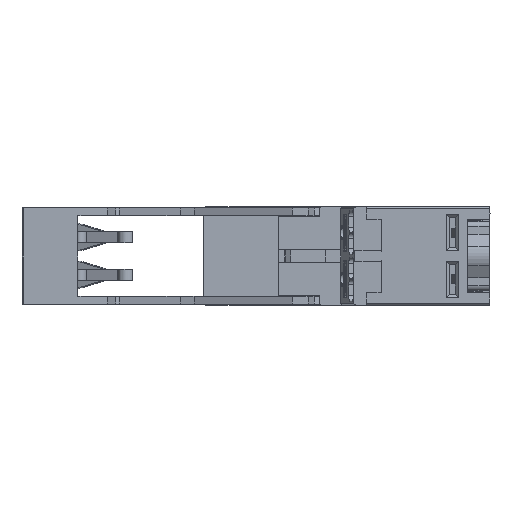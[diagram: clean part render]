
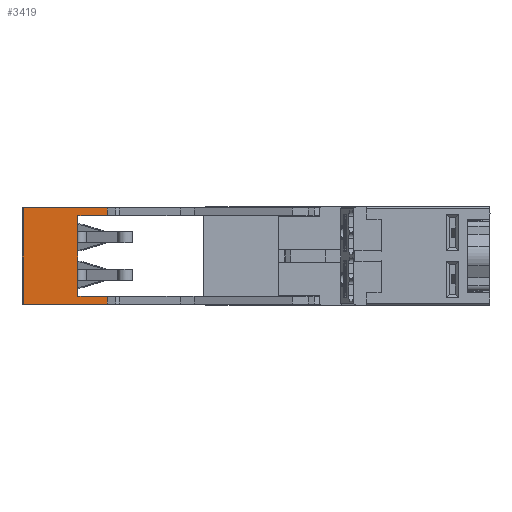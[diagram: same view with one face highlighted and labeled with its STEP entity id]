
A CAD part, left-side view. The second image highlights one B-rep face of the part: STEP entity #3419.
In plain terms, the highlighted planar face has unit normal (-1, 0, 0).
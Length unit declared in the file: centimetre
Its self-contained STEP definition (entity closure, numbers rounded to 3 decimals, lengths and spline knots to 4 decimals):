
#49=CARTESIAN_POINT('',(2.7026,6.7543,-0.775));
#50=VERTEX_POINT('',#49);
#51=CARTESIAN_POINT('',(2.7026,6.7543,-0.65));
#52=VERTEX_POINT('',#51);
#53=CARTESIAN_POINT('',(2.7023,6.7544,-0.775));
#54=CARTESIAN_POINT('',(2.7023,6.7544,-0.65));
#55=QUASI_UNIFORM_CURVE('',1,(#53,#54),.UNSPECIFIED.,.F.,.U.);
#56=EDGE_CURVE('',#50,#52,#55,.T.);
#798=CARTESIAN_POINT('',(2.7026,6.7543,0.65));
#799=VERTEX_POINT('',#798);
#800=CARTESIAN_POINT('',(2.7026,6.7543,0.775));
#801=VERTEX_POINT('',#800);
#802=CARTESIAN_POINT('',(2.7023,6.7544,0.65));
#803=CARTESIAN_POINT('',(2.7023,6.7544,0.775));
#804=QUASI_UNIFORM_CURVE('',1,(#802,#803),.UNSPECIFIED.,.F.,.U.);
#805=EDGE_CURVE('',#799,#801,#804,.T.);
#1085=CARTESIAN_POINT('',(2.7023,7.2259,0.65));
#1086=VERTEX_POINT('',#1085);
#1087=CARTESIAN_POINT('',(2.7023,7.2259,0.65));
#1088=DIRECTION('',(0.0,-1.0,0.0));
#1089=VECTOR('',#1088,0.4716);
#1090=LINE('',#1087,#1089);
#1091=EDGE_CURVE('',#1086,#799,#1090,.T.);
#1216=CARTESIAN_POINT('',(2.7023,7.2259,-0.65));
#1217=VERTEX_POINT('',#1216);
#1218=CARTESIAN_POINT('',(2.7023,7.2259,-0.65));
#1219=DIRECTION('',(0.0,0.0,1.0));
#1220=VECTOR('',#1219,1.3);
#1221=LINE('',#1218,#1220);
#1222=EDGE_CURVE('',#1217,#1086,#1221,.T.);
#2246=CARTESIAN_POINT('',(2.7023,8.1059,-0.775));
#2247=VERTEX_POINT('',#2246);
#2248=CARTESIAN_POINT('',(2.7023,6.7543,-0.775));
#2249=DIRECTION('',(0.0,1.0,0.0));
#2250=VECTOR('',#2249,1.3516);
#2251=LINE('',#2248,#2250);
#2252=EDGE_CURVE('',#50,#2247,#2251,.T.);
#2791=CARTESIAN_POINT('',(2.7023,8.1059,0.775));
#2792=VERTEX_POINT('',#2791);
#2800=CARTESIAN_POINT('',(2.7023,6.7543,0.775));
#2801=DIRECTION('',(0.0,1.0,0.0));
#2802=VECTOR('',#2801,1.3516);
#2803=LINE('',#2800,#2802);
#2804=EDGE_CURVE('',#801,#2792,#2803,.T.);
#3394=CARTESIAN_POINT('',(2.7023,6.6867,0.8525));
#3395=DIRECTION('',(-1.0,0.0,0.0));
#3396=DIRECTION('',(0.0,1.0,0.0));
#3397=AXIS2_PLACEMENT_3D('',#3394,#3395,#3396);
#3398=PLANE('',#3397);
#3399=ORIENTED_EDGE('',*,*,#56,.T.);
#3400=CARTESIAN_POINT('',(2.7023,6.7543,-0.65));
#3401=DIRECTION('',(0.0,1.0,0.0));
#3402=VECTOR('',#3401,0.4716);
#3403=LINE('',#3400,#3402);
#3404=EDGE_CURVE('',#52,#1217,#3403,.T.);
#3405=ORIENTED_EDGE('',*,*,#3404,.T.);
#3406=ORIENTED_EDGE('',*,*,#1222,.T.);
#3407=ORIENTED_EDGE('',*,*,#1091,.T.);
#3408=ORIENTED_EDGE('',*,*,#805,.T.);
#3409=ORIENTED_EDGE('',*,*,#2804,.T.);
#3410=CARTESIAN_POINT('',(2.7023,8.1059,0.775));
#3411=DIRECTION('',(0.0,0.0,-1.0));
#3412=VECTOR('',#3411,1.55);
#3413=LINE('',#3410,#3412);
#3414=EDGE_CURVE('',#2792,#2247,#3413,.T.);
#3415=ORIENTED_EDGE('',*,*,#3414,.T.);
#3416=ORIENTED_EDGE('',*,*,#2252,.F.);
#3417=EDGE_LOOP('',(#3399,#3405,#3406,#3407,#3408,#3409,#3415,#3416));
#3418=FACE_OUTER_BOUND('',#3417,.T.);
#3419=ADVANCED_FACE('',(#3418),#3398,.T.);
